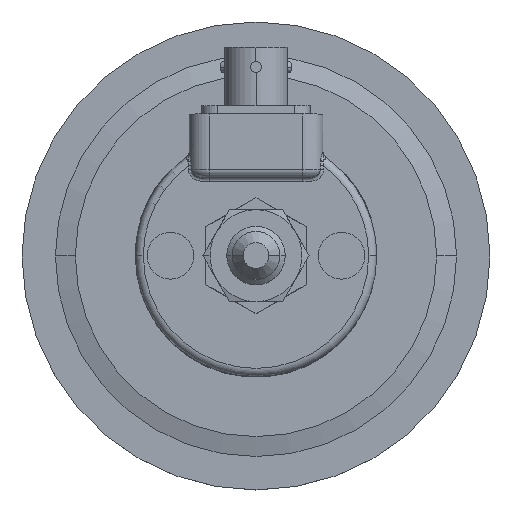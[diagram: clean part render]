
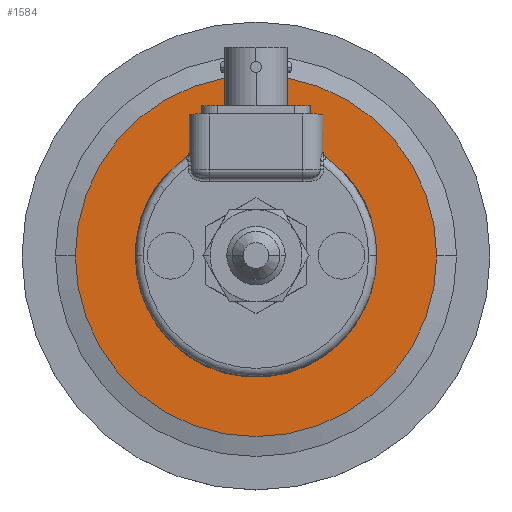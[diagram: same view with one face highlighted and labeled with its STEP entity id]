
A CAD part, top view. The second image highlights one B-rep face of the part: STEP entity #1584.
In plain terms, the highlighted planar face has unit normal (0, 0, 1).
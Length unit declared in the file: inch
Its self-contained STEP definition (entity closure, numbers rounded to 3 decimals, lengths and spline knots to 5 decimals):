
#37 = VERTEX_POINT ( 'NONE', #1753 ) ;
#39 = EDGE_CURVE ( 'NONE', #37, #40, #1752, .T. ) ;
#40 = VERTEX_POINT ( 'NONE', #1747 ) ;
#85 = EDGE_CURVE ( 'NONE', #86, #87, #1951, .T. ) ;
#86 = VERTEX_POINT ( 'NONE', #1947 ) ;
#87 = VERTEX_POINT ( 'NONE', #1946 ) ;
#349 = EDGE_CURVE ( 'NONE', #350, #351, #2571, .T. ) ;
#350 = VERTEX_POINT ( 'NONE', #2566 ) ;
#351 = VERTEX_POINT ( 'NONE', #2565 ) ;
#505 = VERTEX_POINT ( 'NONE', #2924 ) ;
#509 = VERTEX_POINT ( 'NONE', #2918 ) ;
#511 = EDGE_CURVE ( 'NONE', #509, #505, #2917, .T. ) ;
#742 = EDGE_CURVE ( 'NONE', #816, #763, #3589, .T. ) ;
#749 = EDGE_CURVE ( 'NONE', #764, #891, #3574, .T. ) ;
#757 = EDGE_CURVE ( 'NONE', #350, #921, #3559, .T. ) ;
#762 = EDGE_CURVE ( 'NONE', #763, #764, #3605, .T. ) ;
#763 = VERTEX_POINT ( 'NONE', #3600 ) ;
#764 = VERTEX_POINT ( 'NONE', #3599 ) ;
#796 = EDGE_CURVE ( 'NONE', #797, #798, #3461, .T. ) ;
#797 = VERTEX_POINT ( 'NONE', #3456 ) ;
#798 = VERTEX_POINT ( 'NONE', #3455 ) ;
#816 = VERTEX_POINT ( 'NONE', #3496 ) ;
#825 = EDGE_CURVE ( 'NONE', #37, #797, #3709, .T. ) ;
#838 = EDGE_CURVE ( 'NONE', #922, #40, #3776, .T. ) ;
#874 = EDGE_CURVE ( 'NONE', #798, #505, #3742, .T. ) ;
#891 = VERTEX_POINT ( 'NONE', #3715 ) ;
#921 = VERTEX_POINT ( 'NONE', #3642 ) ;
#922 = VERTEX_POINT ( 'NONE', #3805 ) ;
#935 = EDGE_CURVE ( 'NONE', #921, #922, #3816, .T. ) ;
#1294 = EDGE_CURVE ( 'NONE', #351, #891, #4700, .T. ) ;
#1299 = EDGE_CURVE ( 'NONE', #816, #509, #4696, .T. ) ;
#1318 = EDGE_LOOP ( 'NONE', ( #1319, #1320, #1321, #1322, #1323, #1570, #1571, #1572, #1573, #1574, #1575, #1576, #1577, #1578 ) ) ;
#1319 = ORIENTED_EDGE ( 'NONE', *, *, #796, .T. ) ;
#1320 = ORIENTED_EDGE ( 'NONE', *, *, #874, .T. ) ;
#1321 = ORIENTED_EDGE ( 'NONE', *, *, #511, .F. ) ;
#1322 = ORIENTED_EDGE ( 'NONE', *, *, #1299, .F. ) ;
#1323 = ORIENTED_EDGE ( 'NONE', *, *, #742, .T. ) ;
#1546 = ORIENTED_EDGE ( 'NONE', *, *, #1547, .T. ) ;
#1547 = EDGE_CURVE ( 'NONE', #87, #86, #5070, .T. ) ;
#1548 = ORIENTED_EDGE ( 'NONE', *, *, #85, .T. ) ;
#1570 = ORIENTED_EDGE ( 'NONE', *, *, #762, .T. ) ;
#1571 = ORIENTED_EDGE ( 'NONE', *, *, #749, .T. ) ;
#1572 = ORIENTED_EDGE ( 'NONE', *, *, #1294, .F. ) ;
#1573 = ORIENTED_EDGE ( 'NONE', *, *, #349, .F. ) ;
#1574 = ORIENTED_EDGE ( 'NONE', *, *, #757, .T. ) ;
#1575 = ORIENTED_EDGE ( 'NONE', *, *, #935, .T. ) ;
#1576 = ORIENTED_EDGE ( 'NONE', *, *, #838, .T. ) ;
#1577 = ORIENTED_EDGE ( 'NONE', *, *, #39, .F. ) ;
#1578 = ORIENTED_EDGE ( 'NONE', *, *, #825, .T. ) ;
#1579 = EDGE_LOOP ( 'NONE', ( #1546, #1548 ) ) ;
#1584 = ADVANCED_FACE ( 'NONE', ( #5031, #5030 ), #5029, .F. ) ;
#1747 = CARTESIAN_POINT ( 'NONE',  ( -0.67588, 0.59807, -1.18 ) ) ;
#1748 = DIRECTION ( 'NONE',  ( 1., 0., 0. ) ) ;
#1749 = DIRECTION ( 'NONE',  ( 0., 0., 1. ) ) ;
#1750 = CARTESIAN_POINT ( 'NONE',  ( 0., 0., -1.18 ) ) ;
#1751 = AXIS2_PLACEMENT_3D ( 'NONE', #1750, #1749, #1748 ) ;
#1752 = CIRCLE ( 'NONE', #1751, 0.9025 ) ;
#1753 = CARTESIAN_POINT ( 'NONE',  ( 0.66907, 0.60568, -1.18 ) ) ;
#1946 = CARTESIAN_POINT ( 'NONE',  ( -1.351, 0., -1.18 ) ) ;
#1947 = CARTESIAN_POINT ( 'NONE',  ( 1.351, 0., -1.18 ) ) ;
#1948 = DIRECTION ( 'NONE',  ( 1., 0., 0. ) ) ;
#1949 = DIRECTION ( 'NONE',  ( 0., 0., 1. ) ) ;
#1950 = AXIS2_PLACEMENT_3D ( 'NONE', #1957, #1949, #1948 ) ;
#1951 = CIRCLE ( 'NONE', #1950, 1.351 ) ;
#1957 = CARTESIAN_POINT ( 'NONE',  ( 0., 0., -1.18 ) ) ;
#2565 = CARTESIAN_POINT ( 'NONE',  ( -0.9025, 0., -1.18 ) ) ;
#2566 = CARTESIAN_POINT ( 'NONE',  ( -0.85907, 0.27659, -1.18 ) ) ;
#2567 = DIRECTION ( 'NONE',  ( 1., 0., 0. ) ) ;
#2568 = DIRECTION ( 'NONE',  ( 0., 0., 1. ) ) ;
#2569 = CARTESIAN_POINT ( 'NONE',  ( 0., 0., -1.18 ) ) ;
#2570 = AXIS2_PLACEMENT_3D ( 'NONE', #2569, #2568, #2567 ) ;
#2571 = CIRCLE ( 'NONE', #2570, 0.9025 ) ;
#2913 = DIRECTION ( 'NONE',  ( 1., 0., 0. ) ) ;
#2914 = DIRECTION ( 'NONE',  ( 0., 0., 1. ) ) ;
#2915 = CARTESIAN_POINT ( 'NONE',  ( 0., 0., -1.18 ) ) ;
#2916 = AXIS2_PLACEMENT_3D ( 'NONE', #2915, #2914, #2913 ) ;
#2917 = CIRCLE ( 'NONE', #2916, 0.9025 ) ;
#2918 = CARTESIAN_POINT ( 'NONE',  ( 0.9025, 0., -1.18 ) ) ;
#2924 = CARTESIAN_POINT ( 'NONE',  ( 0.85588, 0.2863, -1.18 ) ) ;
#3455 = CARTESIAN_POINT ( 'NONE',  ( 0.8603, 0.28885, -1.18 ) ) ;
#3456 = CARTESIAN_POINT ( 'NONE',  ( 0.6735, 0.60824, -1.18 ) ) ;
#3457 = DIRECTION ( 'NONE',  ( -1., 0., 0. ) ) ;
#3458 = DIRECTION ( 'NONE',  ( 0., 0., -1. ) ) ;
#3459 = CARTESIAN_POINT ( 'NONE',  ( 0., 0., -1.18 ) ) ;
#3460 = AXIS2_PLACEMENT_3D ( 'NONE', #3459, #3458, #3457 ) ;
#3461 = CIRCLE ( 'NONE', #3460, 0.9075 ) ;
#3496 = CARTESIAN_POINT ( 'NONE',  ( 0.73928, -0.51765, -1.18 ) ) ;
#3559 = LINE ( 'NONE', #3564, #3613 ) ;
#3564 = CARTESIAN_POINT ( 'NONE',  ( -0.85907, 0.27659, -1.18 ) ) ;
#3571 = DIRECTION ( 'NONE',  ( 0.819, 0.574, 0. ) ) ;
#3572 = VECTOR ( 'NONE', #3571, 39.37008 ) ;
#3573 = CARTESIAN_POINT ( 'NONE',  ( -0.73928, -0.51765, -1.18 ) ) ;
#3574 = LINE ( 'NONE', #3573, #3572 ) ;
#3586 = DIRECTION ( 'NONE',  ( 0.819, -0.574, 0. ) ) ;
#3587 = VECTOR ( 'NONE', #3586, 39.37008 ) ;
#3588 = CARTESIAN_POINT ( 'NONE',  ( 0.73928, -0.51765, -1.18 ) ) ;
#3589 = LINE ( 'NONE', #3588, #3587 ) ;
#3599 = CARTESIAN_POINT ( 'NONE',  ( -0.74338, -0.52052, -1.18 ) ) ;
#3600 = CARTESIAN_POINT ( 'NONE',  ( 0.74338, -0.52052, -1.18 ) ) ;
#3601 = DIRECTION ( 'NONE',  ( -1., 0., 0. ) ) ;
#3602 = DIRECTION ( 'NONE',  ( 0., 0., -1. ) ) ;
#3603 = CARTESIAN_POINT ( 'NONE',  ( 0., 0., -1.18 ) ) ;
#3604 = AXIS2_PLACEMENT_3D ( 'NONE', #3603, #3602, #3601 ) ;
#3605 = CIRCLE ( 'NONE', #3604, 0.9075 ) ;
#3612 = DIRECTION ( 'NONE',  ( -0.866, 0.5, 0. ) ) ;
#3613 = VECTOR ( 'NONE', #3612, 39.37008 ) ;
#3642 = CARTESIAN_POINT ( 'NONE',  ( -0.8635, 0.27915, -1.18 ) ) ;
#3706 = DIRECTION ( 'NONE',  ( 0.866, 0.5, 0. ) ) ;
#3707 = VECTOR ( 'NONE', #3706, 39.37008 ) ;
#3708 = CARTESIAN_POINT ( 'NONE',  ( 0.6735, 0.60824, -1.18 ) ) ;
#3709 = LINE ( 'NONE', #3708, #3707 ) ;
#3715 = CARTESIAN_POINT ( 'NONE',  ( -0.73928, -0.51765, -1.18 ) ) ;
#3739 = DIRECTION ( 'NONE',  ( -0.866, -0.5, 0. ) ) ;
#3740 = VECTOR ( 'NONE', #3739, 39.37008 ) ;
#3741 = CARTESIAN_POINT ( 'NONE',  ( 0.85588, 0.2863, -1.18 ) ) ;
#3742 = LINE ( 'NONE', #3741, #3740 ) ;
#3773 = DIRECTION ( 'NONE',  ( 0.866, -0.5, 0. ) ) ;
#3774 = VECTOR ( 'NONE', #3773, 39.37008 ) ;
#3775 = CARTESIAN_POINT ( 'NONE',  ( -0.67588, 0.59807, -1.18 ) ) ;
#3776 = LINE ( 'NONE', #3775, #3774 ) ;
#3805 = CARTESIAN_POINT ( 'NONE',  ( -0.6803, 0.60062, -1.18 ) ) ;
#3813 = DIRECTION ( 'NONE',  ( -1., 0., 0. ) ) ;
#3814 = DIRECTION ( 'NONE',  ( 0., 0., -1. ) ) ;
#3815 = AXIS2_PLACEMENT_3D ( 'NONE', #3820, #3814, #3813 ) ;
#3816 = CIRCLE ( 'NONE', #3815, 0.9075 ) ;
#3820 = CARTESIAN_POINT ( 'NONE',  ( 0., 0., -1.18 ) ) ;
#4692 = DIRECTION ( 'NONE',  ( 1., 0., 0. ) ) ;
#4693 = DIRECTION ( 'NONE',  ( 0., 0., 1. ) ) ;
#4694 = CARTESIAN_POINT ( 'NONE',  ( 0., 0., -1.18 ) ) ;
#4695 = AXIS2_PLACEMENT_3D ( 'NONE', #4694, #4693, #4692 ) ;
#4696 = CIRCLE ( 'NONE', #4695, 0.9025 ) ;
#4697 = DIRECTION ( 'NONE',  ( 1., 0., 0. ) ) ;
#4698 = DIRECTION ( 'NONE',  ( 0., 0., 1. ) ) ;
#4699 = AXIS2_PLACEMENT_3D ( 'NONE', #4706, #4698, #4697 ) ;
#4700 = CIRCLE ( 'NONE', #4699, 0.9025 ) ;
#4706 = CARTESIAN_POINT ( 'NONE',  ( 0., 0., -1.18 ) ) ;
#5025 = DIRECTION ( 'NONE',  ( -1., 0., 0. ) ) ;
#5026 = DIRECTION ( 'NONE',  ( 0., 0., -1. ) ) ;
#5027 = CARTESIAN_POINT ( 'NONE',  ( 0., 0., -1.18 ) ) ;
#5028 = AXIS2_PLACEMENT_3D ( 'NONE', #5027, #5026, #5025 ) ;
#5029 = PLANE ( 'NONE',  #5028 ) ;
#5030 = FACE_OUTER_BOUND ( 'NONE', #1579, .T. ) ;
#5031 = FACE_BOUND ( 'NONE', #1318, .T. ) ;
#5066 = DIRECTION ( 'NONE',  ( 1., 0., 0. ) ) ;
#5067 = DIRECTION ( 'NONE',  ( 0., 0., 1. ) ) ;
#5068 = CARTESIAN_POINT ( 'NONE',  ( 0., 0., -1.18 ) ) ;
#5069 = AXIS2_PLACEMENT_3D ( 'NONE', #5068, #5067, #5066 ) ;
#5070 = CIRCLE ( 'NONE', #5069, 1.351 ) ;
